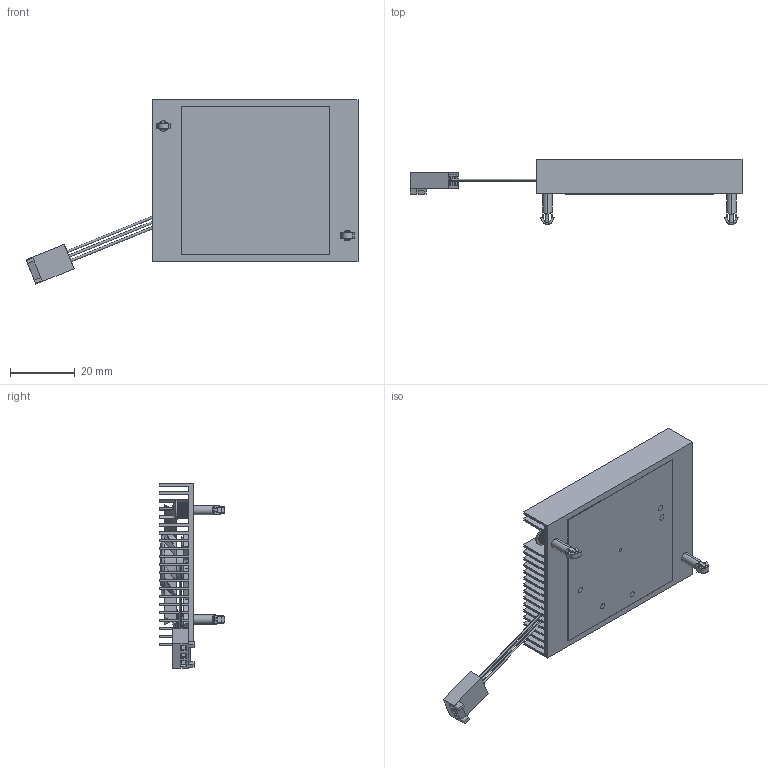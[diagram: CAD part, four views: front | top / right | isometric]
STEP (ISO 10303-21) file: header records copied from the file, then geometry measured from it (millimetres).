
FILE_DESCRIPTION (( 'STEP AP214' ), '1' );
FILE_NAME ('SZ12L+P.STEP', '2023-02-15T00:41:49', ( '' ), ( '' ), 'SwSTEP 2.0', 'SolidWorks 2020', '' );
FILE_SCHEMA (( 'AUTOMOTIVE_DESIGN' ));
Length unit declared in the file: inch
Products named in the file (1): SZ12L+P
Bounding box: 102.52 x 20.1 x 56.92 mm (x, y, z)
Volume: 12379.7 mm3; surface area: 29467.1 mm2
Topology: 9 solids, 9 shells, 1011 faces, 2750 edges, 1803 vertices
Faces by surface type: plane 591, bspline 220, cylinder 156, cone 42, torus 2
Entity records: 60694 total; most frequent: CARTESIAN_POINT 23751, ORIENTED_EDGE 5472, DIRECTION 3976, EDGE_CURVE 2736, VERTEX_POINT 1803, VECTOR 1684, LINE 1684, AXIS2_PLACEMENT_3D 1146
